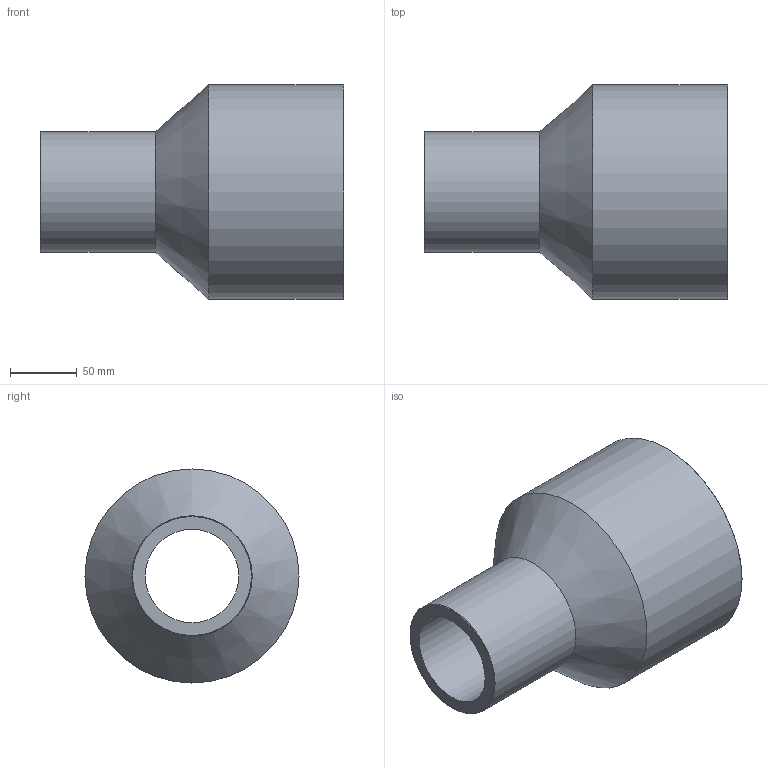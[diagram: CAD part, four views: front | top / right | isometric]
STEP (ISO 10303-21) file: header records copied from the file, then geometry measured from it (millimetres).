
FILE_DESCRIPTION(/* description */ ('Unknown'),/* implementation_level */ '2;1');
FILE_NAME(/* name */ 'RP160090G',/* time_stamp */ '2021-09-16T16:59:31+02:00',/* author */ ('Unknown'),/* organization */ ('Unknown'),/* preprocessor_version */ 'ST-DEVELOPER v16.7',/* originating_system */ 'Solid Edge',/* authorisation */ 'Unknown');
FILE_SCHEMA (('AUTOMOTIVE_DESIGN {1 0 10303 214 3 1 1}'));
Length unit declared in the file: millimetre
Products named in the file (1): RP160090G
Bounding box: 227 x 160 x 160 mm (x, y, z)
Volume: 1304508.2 mm3; surface area: 177584.1 mm2
Topology: 1 solids, 1 shells, 10 faces, 19 edges, 11 vertices
Faces by surface type: cylinder 4, cone 4, plane 2
Full cylindrical faces by diameter (mm): 69.8 x1, 90 x1, 124.2 x1, 160 x1
Entity records: 238 total; most frequent: DIRECTION 42, CARTESIAN_POINT 31, AXIS2_PLACEMENT_3D 21, ORIENTED_EDGE 20, EDGE_LOOP 20, FACE_BOUND 20, EDGE_CURVE 10, VERTEX_POINT 10
